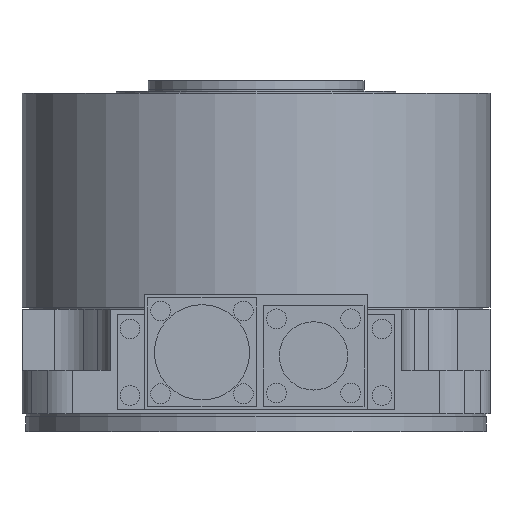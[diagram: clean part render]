
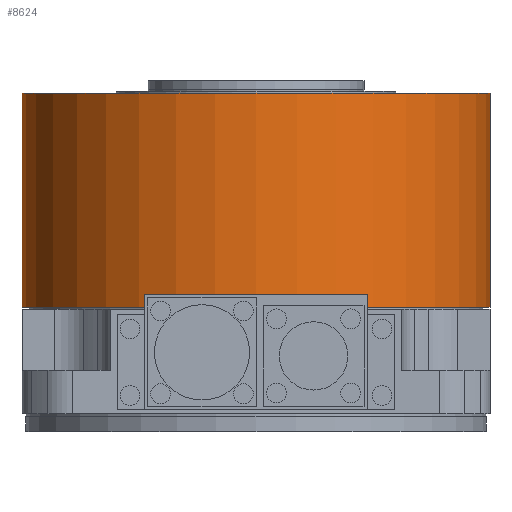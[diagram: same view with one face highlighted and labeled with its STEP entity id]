
A CAD part, front view. The second image highlights one B-rep face of the part: STEP entity #8624.
In plain terms, the highlighted cylindrical face has radius 65 mm (diameter 130 mm), a partial arc.
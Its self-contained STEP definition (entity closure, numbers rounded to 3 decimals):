
#2159 = VERTEX_POINT ( 'NONE', #6539 ) ;
#2161 = EDGE_CURVE ( 'NONE', #2183, #2159, #6538, .T. ) ;
#2183 = VERTEX_POINT ( 'NONE', #6627 ) ;
#2184 = VERTEX_POINT ( 'NONE', #6626 ) ;
#2237 = EDGE_CURVE ( 'NONE', #2184, #2238, #6676, .T. ) ;
#2238 = VERTEX_POINT ( 'NONE', #6672 ) ;
#6538 = LINE ( 'NONE', #6609, #6608 ) ;
#6539 = CARTESIAN_POINT ( 'NONE',  ( 65., 0., 0. ) ) ;
#6607 = DIRECTION ( 'NONE',  ( 0., 0., 1. ) ) ;
#6608 = VECTOR ( 'NONE', #6607, 1000. ) ;
#6609 = CARTESIAN_POINT ( 'NONE',  ( 65., 0., -59.5 ) ) ;
#6626 = CARTESIAN_POINT ( 'NONE',  ( -65., 0., -59.5 ) ) ;
#6627 = CARTESIAN_POINT ( 'NONE',  ( 65., 0., -59.5 ) ) ;
#6672 = CARTESIAN_POINT ( 'NONE',  ( -65., 0., 0. ) ) ;
#6673 = DIRECTION ( 'NONE',  ( 0., 0., 1. ) ) ;
#6674 = VECTOR ( 'NONE', #6673, 1000. ) ;
#6675 = CARTESIAN_POINT ( 'NONE',  ( -65., 0., -59.5 ) ) ;
#6676 = LINE ( 'NONE', #6675, #6674 ) ;
#8190 = DIRECTION ( 'NONE',  ( 1., 0., 0. ) ) ;
#8191 = DIRECTION ( 'NONE',  ( 0., 0., 1. ) ) ;
#8192 = CARTESIAN_POINT ( 'NONE',  ( 0., 0., -59.5 ) ) ;
#8193 = AXIS2_PLACEMENT_3D ( 'NONE', #8192, #8191, #8190 ) ;
#8195 = CYLINDRICAL_SURFACE ( 'NONE', #8193, 65. ) ;
#8196 = FACE_OUTER_BOUND ( 'NONE', #8608, .T. ) ;
#8278 = DIRECTION ( 'NONE',  ( 1., 0., 0. ) ) ;
#8279 = DIRECTION ( 'NONE',  ( 0., 0., 1. ) ) ;
#8280 = CARTESIAN_POINT ( 'NONE',  ( 0., 0., -59.5 ) ) ;
#8281 = AXIS2_PLACEMENT_3D ( 'NONE', #8280, #8279, #8278 ) ;
#8282 = CIRCLE ( 'NONE', #8281, 65. ) ;
#8312 = DIRECTION ( 'NONE',  ( 1., 0., 0. ) ) ;
#8313 = DIRECTION ( 'NONE',  ( 0., 0., 1. ) ) ;
#8314 = CARTESIAN_POINT ( 'NONE',  ( 0., 0., 0. ) ) ;
#8315 = AXIS2_PLACEMENT_3D ( 'NONE', #8314, #8313, #8312 ) ;
#8316 = CIRCLE ( 'NONE', #8315, 65. ) ;
#8608 = EDGE_LOOP ( 'NONE', ( #8618, #8612, #8641, #8633 ) ) ;
#8612 = ORIENTED_EDGE ( 'NONE', *, *, #8659, .T. ) ;
#8618 = ORIENTED_EDGE ( 'NONE', *, *, #2237, .F. ) ;
#8624 = ADVANCED_FACE ( 'NONE', ( #8196 ), #8195, .T. ) ;
#8633 = ORIENTED_EDGE ( 'NONE', *, *, #8685, .F. ) ;
#8641 = ORIENTED_EDGE ( 'NONE', *, *, #2161, .T. ) ;
#8659 = EDGE_CURVE ( 'NONE', #2184, #2183, #8282, .T. ) ;
#8685 = EDGE_CURVE ( 'NONE', #2238, #2159, #8316, .T. ) ;
